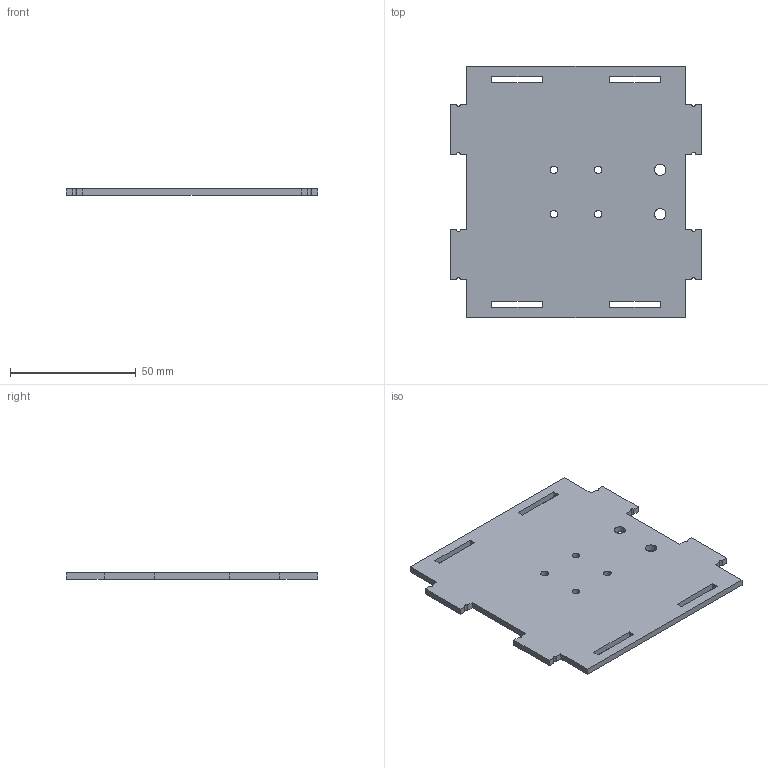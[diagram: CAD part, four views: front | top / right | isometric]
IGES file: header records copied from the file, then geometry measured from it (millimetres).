
Global section: file name: 6.Inferior; native system: Autodesk Inventor 2022; preprocessor: unknown; author: Daniel; date: 20220531.022455; units: millimetre
Bounding box: 100 x 100 x 2.5 mm (x, y, z)
Volume: 22379.9 mm3; surface area: 19602.1 mm2
Topology: 1 solids, 1 shells, 60 faces, 186 edges, 128 vertices
Faces by surface type: bspline 60
